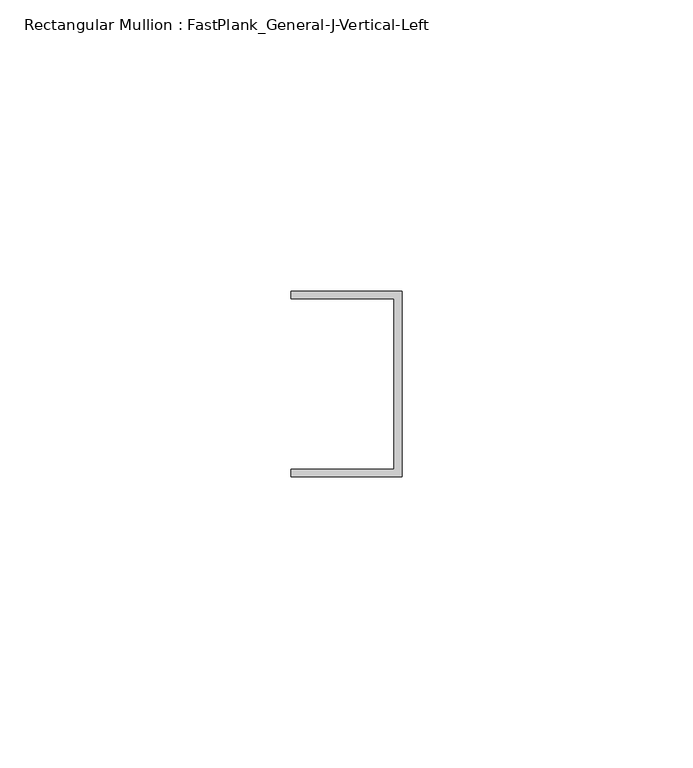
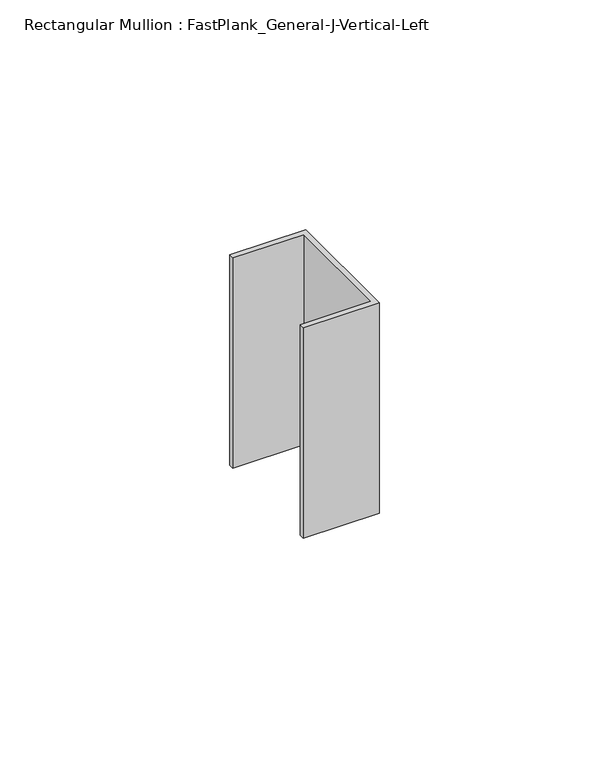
"""IFC4 building model written with IfcOpenShell, lengths in millimetres: member geometry, Rectangular Mullion : FastPlank_General-J-Vertical-Left."""

import ifcopenshell
import ifcopenshell.guid

model = None  # the IFC model being written
_history = None  # IfcOwnerHistory: only IFC2X3 demands one
_inside = {}  # id of a spatial element -> (the spatial element, [elements in it])
_under = {}  # id of a project, library or spatial element -> (it, [spatial elements below it])
_declared = {}  # id of a project -> (the project, [libraries it declares])
_typed = {}  # id of a type object -> (the type object, [elements of that type])
_made_of = {}  # id of a material, layer set ... -> (it, [elements and type objects made of it])


def new_model(schema):
    """Start an empty IFC model of exactly this schema.

    Asked for "IFC4X3", IfcOpenShell would pick the latest addendum, in which some entities
    have other attributes; the version numbers below select the first issue.
    IFC2X3 requires an IfcOwnerHistory on every rooted entity: one is made here for all.
    """
    global model, _history
    if schema == "IFC4X3":
        model = ifcopenshell.file(schema_version=(4, 3, 0, 0))
    else:
        model = ifcopenshell.file(schema=schema)
    _inside.clear()
    _under.clear()
    _declared.clear()
    _typed.clear()
    _made_of.clear()
    _history = None
    if model.schema == "IFC2X3":
        org = make("IfcOrganization", Name="unknown")
        user = make(
            "IfcPersonAndOrganization",
            ThePerson=make("IfcPerson", FamilyName="unknown"),
            TheOrganization=org,
        )
        app = make(
            "IfcApplication",
            ApplicationDeveloper=org,
            Version="unknown",
            ApplicationFullName="unknown",
            ApplicationIdentifier="unknown",
        )
        _history = make(
            "IfcOwnerHistory",
            OwningUser=user,
            OwningApplication=app,
            ChangeAction="ADDED",
            CreationDate=0,
        )
    return model


def make(cls, **values):
    """One entity of the class cls with the attributes given. An attribute that is None is left unset."""
    return model.create_entity(
        cls, **{name: value for name, value in values.items() if value is not None}
    )


def rooted(cls, **values):
    """An entity with a GlobalId (a new one), such as an element, a storey or a relation."""
    return make(cls, GlobalId=ifcopenshell.guid.new(), OwnerHistory=_history, **values)


def si_unit(unit_type, name, prefix=None):
    """IfcSIUnit, for example si_unit("LENGTHUNIT", "METRE", prefix="MILLI")."""
    return make("IfcSIUnit", UnitType=unit_type, Prefix=prefix, Name=name)


def assignment(units):
    """IfcUnitAssignment: the units of a project."""
    return None if units is None else make("IfcUnitAssignment", Units=units)


def point(xyz):
    """IfcCartesianPoint."""
    return None if xyz is None else make("IfcCartesianPoint", Coordinates=xyz)


def direction(xyz):
    """IfcDirection."""
    return None if xyz is None else make("IfcDirection", DirectionRatios=xyz)


def frame(location, z_axis=None, x_axis=None):
    """IfcAxis2Placement3D, a coordinate frame: its origin and axes. An axis left out is left unset."""
    return make(
        "IfcAxis2Placement3D",
        Location=point(location),
        Axis=direction(z_axis),
        RefDirection=direction(x_axis),
    )


def origin():
    """The frame at (0, 0, 0) with its axes left unset."""
    return frame((0.0, 0.0, 0.0))


def place(relative_to, where):
    """IfcLocalPlacement: puts the frame where relative to a parent placement (None: the world)."""
    return make(
        "IfcLocalPlacement", PlacementRelTo=relative_to, RelativePlacement=where
    )


def context(
    kind, dimensions, precision=None, world=None, true_north=None, identifier=None
):
    """IfcGeometricRepresentationContext, for example the 3D "Model" context."""
    return make(
        "IfcGeometricRepresentationContext",
        ContextIdentifier=identifier,
        ContextType=kind,
        CoordinateSpaceDimension=dimensions,
        Precision=precision,
        WorldCoordinateSystem=world,
        TrueNorth=true_north,
    )


def project(units=None, contexts=None):
    """IfcProject with its units and contexts."""
    return rooted(
        "IfcProject",
        Name="project",
        RepresentationContexts=contexts,
        UnitsInContext=assignment(units),
    )


def spatial(cls, under=None, at=None, **own):
    """A site, building, storey or space (cls), placed at a placement, below another one or the project."""
    s = rooted(cls, ObjectPlacement=at, **own)
    if under is not None:
        _under.setdefault(under.id(), (under, []))[1].append(s)
    return s


def polyline(points):
    """IfcPolyline through the points."""
    return make("IfcPolyline", Points=[point(p) for p in points])


def outline(outer, holes=None, kind="AREA"):
    """IfcArbitraryClosedProfileDef: a profile drawn as a closed curve; with holes, ...WithVoids."""
    if holes is None:
        return make("IfcArbitraryClosedProfileDef", ProfileType=kind, OuterCurve=outer)
    return make(
        "IfcArbitraryProfileDefWithVoids",
        ProfileType=kind,
        OuterCurve=outer,
        InnerCurves=holes,
    )


def extrude(swept, where, along, depth):
    """IfcExtrudedAreaSolid: the profile swept, set in the frame where, extruded along a direction by depth."""
    return make(
        "IfcExtrudedAreaSolid",
        SweptArea=swept,
        Position=where,
        ExtrudedDirection=direction(along),
        Depth=depth,
    )


def shape(context_of_items, identifier, shape_type, items):
    """IfcShapeRepresentation: the items that make up one representation, for example the "Body"."""
    return make(
        "IfcShapeRepresentation",
        ContextOfItems=context_of_items,
        RepresentationIdentifier=identifier,
        RepresentationType=shape_type,
        Items=items,
    )


def source(mapping_origin, context_of_items, identifier, shape_type, items):
    """IfcRepresentationMap: a shape defined once, which mapped items show again and again."""
    return make(
        "IfcRepresentationMap",
        MappingOrigin=mapping_origin,
        MappedRepresentation=shape(context_of_items, identifier, shape_type, items),
    )


def transform(
    local_origin,
    x_axis=None,
    y_axis=None,
    z_axis=None,
    scale=None,
    scale2=None,
    scale3=None,
    uniform=True,
):
    """IfcCartesianTransformationOperator3D, or its non-uniform kind. x_axis, y_axis, z_axis: its Axis1, 2, 3."""
    if uniform:
        return make(
            "IfcCartesianTransformationOperator3D",
            Axis1=direction(x_axis),
            Axis2=direction(y_axis),
            LocalOrigin=point(local_origin),
            Scale=scale,
            Axis3=direction(z_axis),
        )
    return make(
        "IfcCartesianTransformationOperator3DnonUniform",
        Axis1=direction(x_axis),
        Axis2=direction(y_axis),
        LocalOrigin=point(local_origin),
        Scale=scale,
        Axis3=direction(z_axis),
        Scale2=scale2,
        Scale3=scale3,
    )


def mapped(mapping_source, mapping_target):
    """IfcMappedItem: shows the shape of a source again, moved by a transform."""
    return make(
        "IfcMappedItem", MappingSource=mapping_source, MappingTarget=mapping_target
    )


def made_of(thing, what):
    """Note that an element or type object is made of a material, layer set ...; save() writes the relation."""
    if what is not None:
        _made_of.setdefault(what.id(), (what, []))[1].append(thing)
    return thing


def element(
    cls,
    number,
    at=None,
    inside=None,
    cuts=None,
    type_object=None,
    material=None,
    context=None,
    identifier="Body",
    shape_type=None,
    held_by="IfcProductDefinitionShape",
    body=None,
    shapes=None,
    **own,
):
    """One element of the class cls, such as IfcWall. Its Tag is "e" and its number.

    at: its placement. inside: the storey or other place that contains it. cuts: it is an
    opening in that element (IfcRelVoidsElement). A single representation is given by context,
    identifier, shape_type and body (its items); several are given by shapes. held_by: the class
    of the entity that holds the representations. save() writes the other relations.
    """
    e = rooted(cls, Tag="e%d" % number, ObjectPlacement=at, **own)
    if body is not None:
        shapes = [shape(context, identifier, shape_type, body)]
    if shapes is not None:
        e.Representation = make(held_by, Representations=shapes)
    if inside is not None:
        _inside.setdefault(inside.id(), (inside, []))[1].append(e)
    if cuts is not None:
        rooted(
            "IfcRelVoidsElement", RelatingBuildingElement=cuts, RelatedOpeningElement=e
        )
    if type_object is not None:
        _typed.setdefault(type_object.id(), (type_object, []))[1].append(e)
    return made_of(e, material)


def aggregate(whole, parts):
    """IfcRelAggregates: a whole, such as a stair, and the parts it consists of."""
    return rooted("IfcRelAggregates", RelatingObject=whole, RelatedObjects=parts)


def save(model, path):
    """Write the relations noted so far, then the file.

    IfcRelAggregates (storeys below a building ...), IfcRelContainedInSpatialStructure (elements
    in a storey), IfcRelDefinesByType, IfcRelAssociatesMaterial and IfcRelDeclares: one each for
    every whole, place, type object, material and project.
    """
    for whole, parts in _under.values():
        aggregate(whole, parts)
    for where, things in _inside.values():
        rooted(
            "IfcRelContainedInSpatialStructure",
            RelatedElements=things,
            RelatingStructure=where,
        )
    for kind, things in _typed.values():
        rooted("IfcRelDefinesByType", RelatedObjects=things, RelatingType=kind)
    for what, things in _made_of.values():
        rooted("IfcRelAssociatesMaterial", RelatedObjects=things, RelatingMaterial=what)
    for by, libraries in _declared.values():
        rooted("IfcRelDeclares", RelatingContext=by, RelatedDefinitions=libraries)
    model.write(path)


def rectangular_mullion_fastplank_general_j_vertical_left_688eca9a(model_context):
    return source(origin(), model_context, "Body", "SweptSolid", [
        extrude(outline(polyline([(0.0, 10.2620691), (0.0, -21.6412691), (-19.05, -21.6412691), (-19.05, -20.3412717), (-1.3000189, -20.3412717), (-1.3000189, 8.9620717), (-19.05, 8.9620717), (-19.05, 10.2620691), (0.0, 10.2620691)])), frame((0.0, 0.0, -55.8524796), z_axis=(0.0, 0.0, 1.0), x_axis=(1.0, 0.0, 0.0)), (0.0, 0.0, 1.0), 55.8524796),
    ])


if __name__ == "__main__":
    model = new_model("IFC4")
    model_context = context("Model", 3, world=origin())
    ifc_project = project(units=[si_unit("LENGTHUNIT", "METRE", prefix="MILLI")], contexts=[model_context])
    site = spatial("IfcSite", under=ifc_project)
    building = spatial("IfcBuilding", under=site)
    placement = place(None, origin())
    rectangular_mullion_fastplank_general_j_vertical_left_shape = rectangular_mullion_fastplank_general_j_vertical_left_688eca9a(model_context)
    element("IfcMember", 1, ObjectType="Rectangular Mullion : FastPlank_General-J-Vertical-Left", at=placement, inside=building, context=model_context, shape_type="MappedRepresentation", body=[
        mapped(rectangular_mullion_fastplank_general_j_vertical_left_shape, transform((0.0, 0.0, 0.0), x_axis=(1.0, 0.0, 0.0), y_axis=(0.0, 1.0, 0.0), z_axis=(0.0, 0.0, 1.0))),
    ])
    save(model, "model.ifc")
